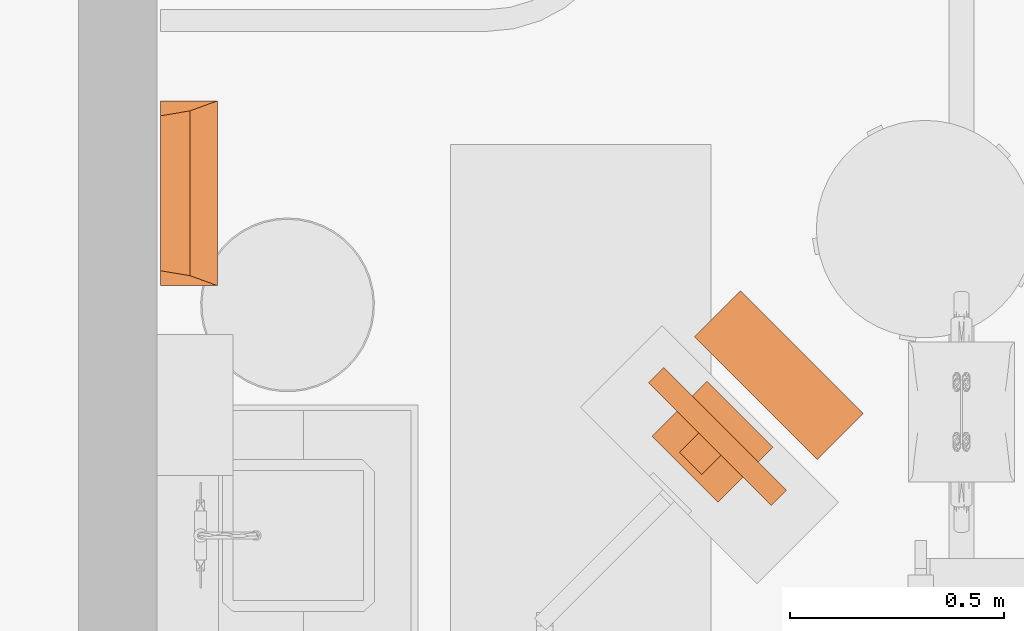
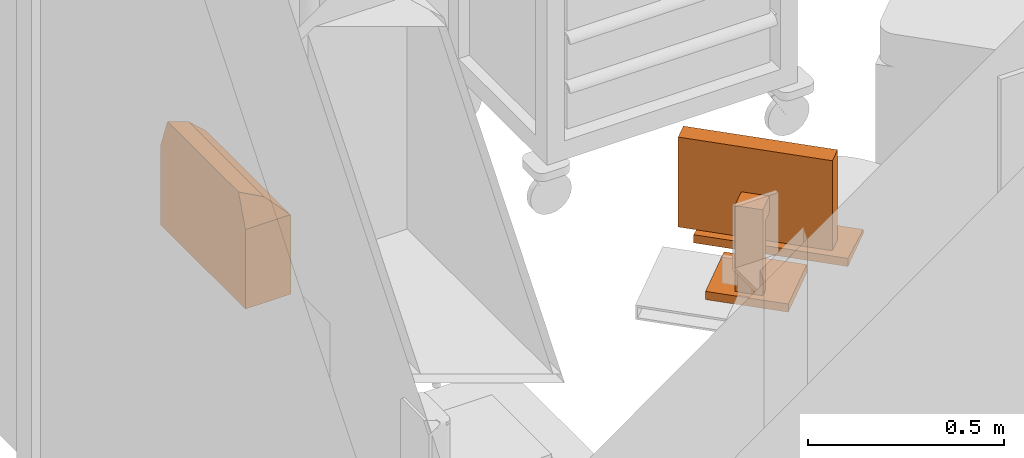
# One storey, part 107 of 142: 2 proxies.
"""IFC2X3 building model written with IfcOpenShell, lengths in feet."""

from ifc_helpers import new_model, entity, si_unit, converted_unit, derived_unit, direction, frame, origin, place, context, subcontext, project, spatial, faceted_brep, source, transform, mapped, type_object, type_shapes, element, save


model = new_model("IFC2X3")

# Units and contexts
model_context = context("Model", 3, precision=0.0001, world=origin(), true_north=direction((6.12303176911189e-17, 1.0)))
body_context = subcontext(model_context, "Body", "Model", "MODEL_VIEW")
ifc_project = project(units=[converted_unit("LENGTHUNIT", "FOOT", entity("IfcRatioMeasure", 0.3048), si_unit("LENGTHUNIT", "METRE"), dimensions=[1, 0, 0, 0, 0, 0, 0]), converted_unit("AREAUNIT", "SQUARE FOOT", entity("IfcRatioMeasure", 0.09290304), si_unit("AREAUNIT", "SQUARE_METRE"), dimensions=[2, 0, 0, 0, 0, 0, 0]), converted_unit("VOLUMEUNIT", "CUBIC FOOT", entity("IfcRatioMeasure", 0.028316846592), si_unit("VOLUMEUNIT", "CUBIC_METRE"), dimensions=[3, 0, 0, 0, 0, 0, 0]), converted_unit("PLANEANGLEUNIT", "DEGREE", entity("IfcRatioMeasure", 0.0174532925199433), si_unit("PLANEANGLEUNIT", "RADIAN"), dimensions=[0, 0, 0, 0, 0, 0, 0]), si_unit("MASSUNIT", "GRAM", prefix="KILO"), derived_unit("MASSDENSITYUNIT", [(si_unit("MASSUNIT", "GRAM", prefix="KILO"), 1), (si_unit("LENGTHUNIT", "METRE"), -3)]), si_unit("TIMEUNIT", "SECOND"), si_unit("FREQUENCYUNIT", "HERTZ"), si_unit("THERMODYNAMICTEMPERATUREUNIT", "DEGREE_CELSIUS"), derived_unit("THERMALTRANSMITTANCEUNIT", [(si_unit("MASSUNIT", "GRAM", prefix="KILO"), 1), (si_unit("THERMODYNAMICTEMPERATUREUNIT", "KELVIN"), -1), (si_unit("TIMEUNIT", "SECOND"), -3)]), derived_unit("VOLUMETRICFLOWRATEUNIT", [(si_unit("LENGTHUNIT", "METRE"), 3), (si_unit("TIMEUNIT", "SECOND"), -1)]), si_unit("ELECTRICCURRENTUNIT", "AMPERE"), si_unit("ELECTRICVOLTAGEUNIT", "VOLT"), si_unit("POWERUNIT", "WATT"), si_unit("FORCEUNIT", "NEWTON"), si_unit("ILLUMINANCEUNIT", "LUX"), si_unit("LUMINOUSFLUXUNIT", "LUMEN"), si_unit("LUMINOUSINTENSITYUNIT", "CANDELA"), derived_unit("USERDEFINED", [(si_unit("MASSUNIT", "GRAM", prefix="KILO"), -1), (si_unit("LENGTHUNIT", "METRE"), -2), (si_unit("TIMEUNIT", "SECOND"), 3), (si_unit("LUMINOUSFLUXUNIT", "LUMEN"), 1)]), derived_unit("LINEARVELOCITYUNIT", [(si_unit("LENGTHUNIT", "METRE"), 1), (si_unit("TIMEUNIT", "SECOND"), -1)]), si_unit("PRESSUREUNIT", "PASCAL"), derived_unit("USERDEFINED", [(si_unit("LENGTHUNIT", "METRE"), -2), (si_unit("MASSUNIT", "GRAM", prefix="KILO"), 1), (si_unit("TIMEUNIT", "SECOND"), -2)])], contexts=[model_context])

# Site, building, storey
site_placement = place(None, origin())
site = spatial("IfcSite", under=ifc_project, at=site_placement, Name="Default", CompositionType="ELEMENT")
building_placement = place(site_placement, origin())
building = spatial("IfcBuilding", under=site, at=building_placement, Name="OUTPATIENT / PACT CLINIC (Ch. 265)", CompositionType="ELEMENT")
storey_placement = place(building_placement, origin())
storey = spatial("IfcBuildingStorey", under=building, at=storey_placement, Name="LEVEL 1", CompositionType="ELEMENT", Elevation=0.0)

# Proxy
building_element_proxy_type_1 = type_object("IfcBuildingElementProxyType", Name="A5108 - Waste Disposal Unit, Sharps 17\"x 13\"", PredefinedType="NOTDEFINED")
shared_shape_1 = source(origin(), body_context, "Body", "Brep", [
    faceted_brep([(0.70833333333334, 0.0, 0.0), (-0.708333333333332, 0.0, 0.0), (-0.708333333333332, 0.437500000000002, 0.0), (0.70833333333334, 0.437500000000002, 0.0), (0.70833333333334, 0.437500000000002, 0.810989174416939), (0.70833333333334, 0.0025667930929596, 0.810989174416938), (0.70833333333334, 0.0, 0.808422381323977), (-0.708333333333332, 0.437500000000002, 0.810989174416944), (-0.594042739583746, 0.437500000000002, 1.125), (0.594042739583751, 0.437500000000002, 1.125), (-0.708333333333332, 0.0, 0.808422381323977), (-0.708333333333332, 0.00256679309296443, 0.810989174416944), (0.632497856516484, 0.210923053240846, 1.01934543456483), (-0.632497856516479, 0.210923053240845, 1.01934543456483)], [[[0, 1, 2, 3]], [[0, 3, 4, 5, 6]], [[3, 2, 7, 8, 9, 4]], [[2, 1, 10, 11, 7]], [[1, 0, 6, 10]], [[10, 6, 5, 12, 13, 11]], [[12, 9, 8, 13]], [[5, 4, 9, 12]], [[8, 7, 11, 13]]]),
])
type_shapes(building_element_proxy_type_1, [shared_shape_1])
proxy_1_placement = place(storey_placement, frame((435.718518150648, -916.212175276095, 3.5), z_axis=(0.0, 0.0, 1.0), x_axis=(0.0, 1.0, 0.0)))
element("IfcBuildingElementProxy", 1, at=proxy_1_placement, inside=storey, type_object=building_element_proxy_type_1, Name="A5108 - Waste Disposal Unit, Sharps1:A5108 - Waste Disposal Unit, Sharps 17\"x 13\"", ObjectType="A5108 - Waste Disposal Unit, Sharps 17\"x 13\"", context=body_context, shape_type="MappedRepresentation", body=[
    mapped(shared_shape_1, transform((0.0, 0.0, 0.0), scale=1.0)),
])

# Space
space_placement = place(storey_placement, origin())
space = spatial("IfcSpace", under=storey, at=space_placement, Name="EXPA1", CompositionType="ELEMENT", InteriorOrExteriorSpace="INTERNAL")

# Proxy
building_element_proxy_type_2 = type_object("IfcBuildingElementProxyType", Name="M1801 - Computer with Flat Panel Monitor", PredefinedType="NOTDEFINED")
shared_shape_2 = source(origin(), body_context, "Body", "Brep", [
    faceted_brep([(0.666666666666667, -0.5625, 0.0), (0.666666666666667, -0.0624999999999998, 0.0), (0.666666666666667, -0.0624999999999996, 0.0833333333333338), (0.666666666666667, -0.5625, 0.0416666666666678), (-0.666666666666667, -0.5625, 0.0), (-0.666666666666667, -0.5625, 0.0416666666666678), (-0.666666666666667, -0.0624999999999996, 0.0833333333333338), (-0.666666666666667, -0.0624999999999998, 0.0)], [[[0, 1, 2, 3]], [[4, 5, 6, 7]], [[1, 0, 4, 7]], [[2, 1, 7, 6]], [[3, 2, 6, 5]], [[0, 3, 5, 4]]]),
    faceted_brep([(0.666666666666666, 0.437223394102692, 1.41666666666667), (-0.666666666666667, 0.437223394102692, 1.41666666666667), (-0.666666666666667, 0.271109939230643, 1.41666666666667), (0.666666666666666, 0.271109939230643, 1.41666666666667), (0.666666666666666, 0.437223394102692, 0.500000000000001), (0.666666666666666, 0.271109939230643, 0.500000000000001), (-0.666666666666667, 0.271109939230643, 0.500000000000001), (-0.666666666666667, 0.437223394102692, 0.500000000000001), (-0.625, 0.271109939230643, 1.375), (0.625, 0.271109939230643, 1.375), (0.625, 0.271109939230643, 0.541666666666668), (-0.625, 0.271109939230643, 0.541666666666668), (0.625, 0.286812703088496, 1.375), (-0.625, 0.286812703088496, 1.375), (0.625, 0.286812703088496, 0.541666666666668), (-0.625, 0.286812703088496, 0.541666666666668)], [[[0, 1, 2, 3]], [[4, 5, 6, 7]], [[1, 0, 4, 7]], [[2, 1, 7, 6]], [[3, 2, 6, 5], [8, 9, 10, 11]], [[0, 3, 5, 4]], [[12, 9, 8, 13]], [[14, 15, 11, 10]], [[12, 13, 15, 14]], [[13, 8, 11, 15]], [[9, 12, 14, 10]]]),
    faceted_brep([(0.358011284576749, 0.111770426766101, 0.0833333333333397), (0.358011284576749, 0.111770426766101, 0.0), (0.358011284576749, 0.708333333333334, 0.0), (0.358011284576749, 0.708333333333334, 0.0833333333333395), (-0.358011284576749, 0.708333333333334, 0.0833333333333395), (-0.358011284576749, 0.708333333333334, 0.0), (-0.358011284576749, 0.111770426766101, 0.0), (-0.358011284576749, 0.111770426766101, 0.0833333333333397), (0.12128795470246, 0.645556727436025, 0.104166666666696), (0.12128795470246, 0.645556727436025, 0.0833333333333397), (-0.12128795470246, 0.645556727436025, 0.0833333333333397), (-0.12128795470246, 0.645556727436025, 0.104166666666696), (0.12128795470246, 0.645556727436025, 0.958333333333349), (-0.12128795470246, 0.645556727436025, 0.958333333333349), (0.12128795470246, 0.437223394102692, 0.958333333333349), (-0.12128795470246, 0.437223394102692, 0.958333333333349), (0.12128795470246, 0.437223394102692, 0.791666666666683), (-0.12128795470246, 0.437223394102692, 0.791666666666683), (0.12128795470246, 0.562223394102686, 0.791666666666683), (-0.12128795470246, 0.562223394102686, 0.791666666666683), (0.12128795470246, 0.562223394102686, 0.0833333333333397), (-0.12128795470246, 0.562223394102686, 0.0833333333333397)], [[[0, 1, 2, 3]], [[4, 5, 6, 7]], [[8, 9, 10, 11]], [[12, 8, 11, 13]], [[14, 12, 13, 15]], [[16, 14, 15, 17]], [[18, 16, 17, 19]], [[20, 18, 19, 21]], [[0, 3, 4, 7], [9, 20, 21, 10]], [[1, 0, 7, 6]], [[2, 1, 6, 5]], [[3, 2, 5, 4]], [[20, 9, 8, 12, 14, 16, 18]], [[10, 21, 19, 17, 15, 13, 11]]]),
])
type_shapes(building_element_proxy_type_2, [shared_shape_2])
proxy_2_placement = place(space_placement, frame((439.803720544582, -917.828014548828, 2.9791666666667), z_axis=(0.0, 0.0, 1.0), x_axis=(-0.707106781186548, 0.707106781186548, 0.0)))
element("IfcBuildingElementProxy", 2, at=proxy_2_placement, inside=space, type_object=building_element_proxy_type_2, Name="M1801 - Computer with Flat Panel Monitor1:M1801 - Computer with Flat Panel Monitor", ObjectType="M1801 - Computer with Flat Panel Monitor", context=body_context, shape_type="MappedRepresentation", body=[
    mapped(shared_shape_2, transform((0.0, 0.0, 0.0), scale=1.0)),
])

save(model, "model.ifc")
